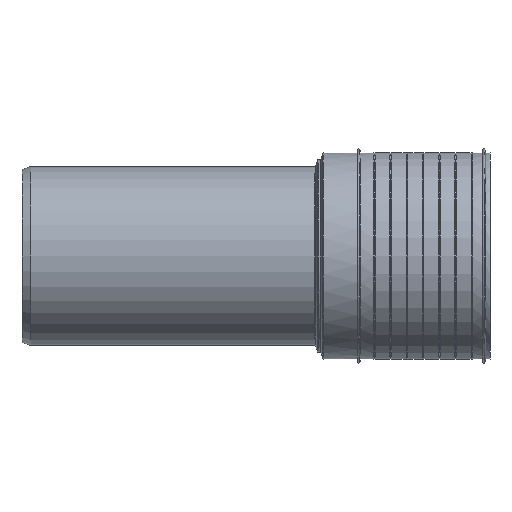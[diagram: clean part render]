
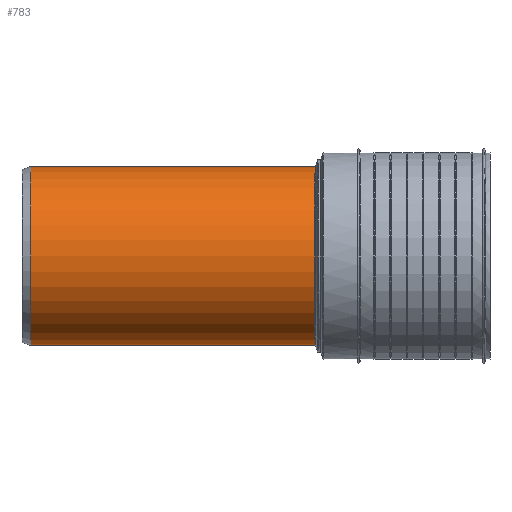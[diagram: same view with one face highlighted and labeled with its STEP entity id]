
A CAD part, front view. The second image highlights one B-rep face of the part: STEP entity #783.
In plain terms, the highlighted cylindrical face has radius 55.1 mm (diameter 110.2 mm), a full revolution.
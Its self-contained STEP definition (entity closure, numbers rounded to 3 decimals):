
#19=CYLINDRICAL_SURFACE($,#908,55.1);
#51=FACE_BOUND($,#235,.T.);
#154=FACE_OUTER_BOUND($,#234,.T.);
#234=EDGE_LOOP($,(#629));
#235=EDGE_LOOP($,(#630));
#327=CIRCLE($,#905,55.1);
#329=CIRCLE($,#909,55.1);
#396=VERTEX_POINT($,#1381);
#398=VERTEX_POINT($,#1387);
#481=EDGE_CURVE($,#396,#396,#327,.T.);
#483=EDGE_CURVE($,#398,#398,#329,.T.);
#629=ORIENTED_EDGE($,*,*,#483,.F.);
#630=ORIENTED_EDGE($,*,*,#481,.F.);
#783=ADVANCED_FACE($,(#154,#51),#19,.T.);
#905=AXIS2_PLACEMENT_3D($,#1382,#1154,#1155);
#908=AXIS2_PLACEMENT_3D($,#1386,#1160,#1161);
#909=AXIS2_PLACEMENT_3D($,#1388,#1162,#1163);
#1154=DIRECTION('center_axis',(-1.,0.,0.));
#1155=DIRECTION('ref_axis',(0.,-1.,0.));
#1160=DIRECTION('center_axis',(1.,0.,0.));
#1161=DIRECTION('ref_axis',(0.,1.,0.));
#1162=DIRECTION('center_axis',(1.,0.,0.));
#1163=DIRECTION('ref_axis',(0.,1.,0.));
#1381=CARTESIAN_POINT('',(5.5,55.1,0.));
#1382=CARTESIAN_POINT('Origin',(5.5,0.,0.));
#1386=CARTESIAN_POINT('Origin',(90.339,0.,0.));
#1387=CARTESIAN_POINT('',(180.677,55.1,0.));
#1388=CARTESIAN_POINT('Origin',(180.677,0.,0.));
